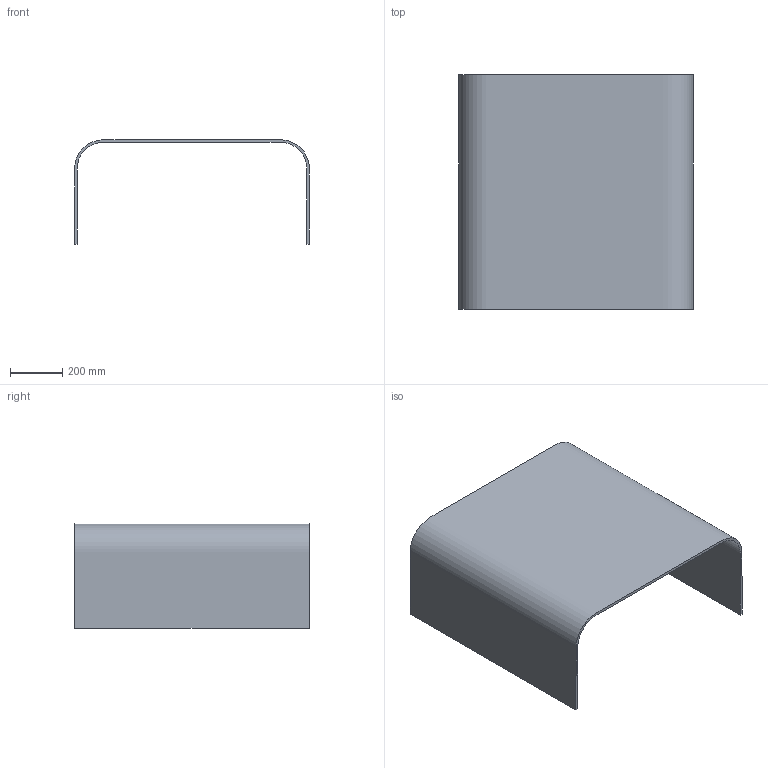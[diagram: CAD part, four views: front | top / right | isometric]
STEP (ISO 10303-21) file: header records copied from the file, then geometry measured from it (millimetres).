
FILE_DESCRIPTION(/* description */ (''),/* implementation_level */ '2;1');
FILE_NAME(/* name */ '0101 - Ponte 90x90',/* time_stamp */ '2010-11-03T17:42:34+01:00',/* author */ (''),/* organization */ (''),/* preprocessor_version */ 'ST-DEVELOPER v10',/* originating_system */ '',/* authorisation */ '');
FILE_SCHEMA (('CONFIG_CONTROL_DESIGN'));
Length unit declared in the file: centimetre
Products named in the file (1): 1
Bounding box: 900 x 900 x 400 mm (x, y, z)
Volume: 17707976.5 mm3; surface area: 2895678.2 mm2
Topology: 1 solids, 1 shells, 6 faces, 12 edges, 8 vertices
Faces by surface type: plane 4, bspline 2
Entity records: 292 total; most frequent: CARTESIAN_POINT 118, ORIENTED_EDGE 24, EDGE_CURVE 12, VERTEX_POINT 8, B_SPLINE_CURVE_WITH_KNOTS 8, DIRECTION 8, ORGANIZATION 7, PERSON_AND_ORGANIZATION 7
